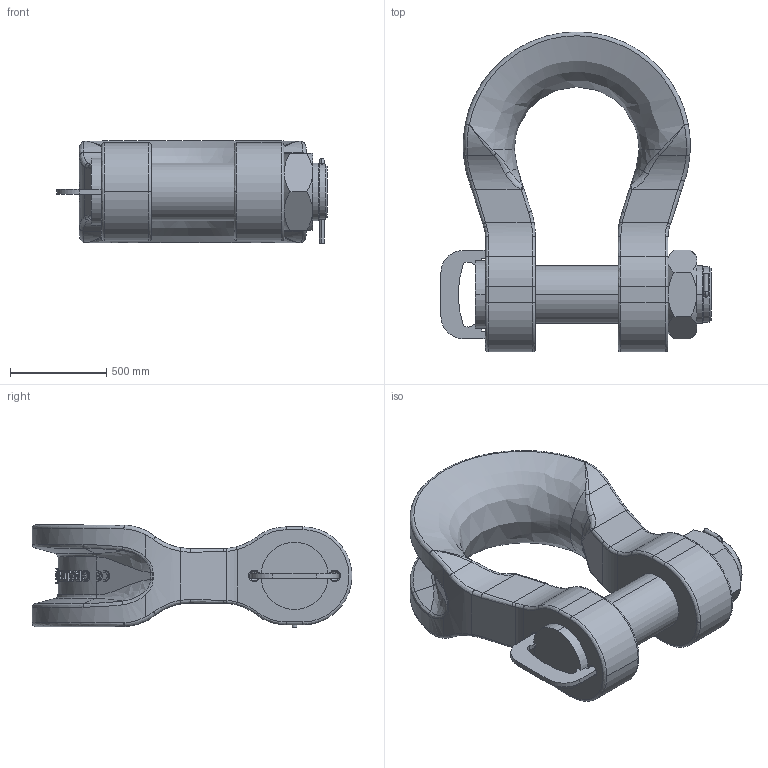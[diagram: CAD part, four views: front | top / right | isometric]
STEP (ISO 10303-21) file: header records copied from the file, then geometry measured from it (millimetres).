
FILE_DESCRIPTION(('STEP AP214'),'1');
FILE_NAME('slgpf1250.stp','2017-07-03T06:31:05',('TraceParts'),('TraceParts S.A.'),'Spatial InterOp 3D',' ',' ');
FILE_SCHEMA(('automotive_design'));
Length unit declared in the file: millimetre
Products named in the file (5): slgpf1250_1; slgpf1250_2; slgpf1250_3; slgpf1250_4; slgpf1250_5
Bounding box: 1406.5 x 1665.45 x 531.31 mm (x, y, z)
Volume: 395969906.8 mm3; surface area: 7431792.3 mm2
Topology: 5 solids, 5 shells, 571 faces, 1443 edges, 907 vertices
Faces by surface type: bspline 245, plane 184, cylinder 109, cone 31, torus 2
Entity records: 79989 total; most frequent: CARTESIAN_POINT 63604, ORIENTED_EDGE 2874, DIRECTION 1720, EDGE_CURVE 1437, VERTEX_POINT 907, B_SPLINE_CURVE_WITH_KNOTS 686, AXIS2_PLACEMENT_3D 662, EDGE_LOOP 610
